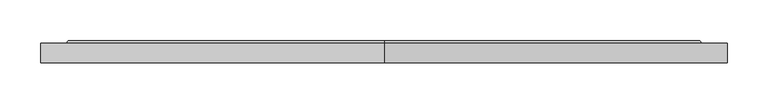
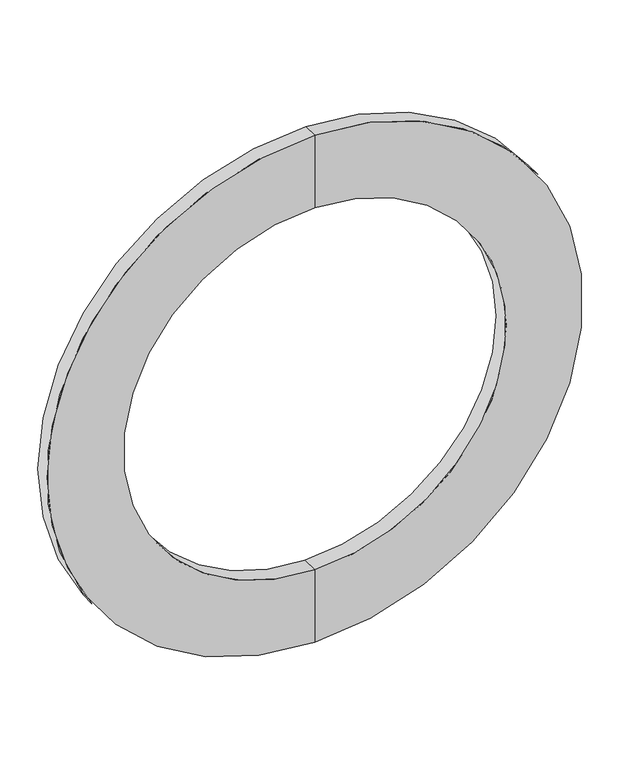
"""IFC4 building model written with IfcOpenShell, lengths in millimetres: pipe fitting geometry, Фланец : Фланец."""

from ifc_helpers import new_model, si_unit, frame, origin, place, context, project, spatial, polyline, circle_curve, source, transform, mapped, element, save
from ifc_brep_helpers import plane_surface, cylinder_surface, revolved_surface, advanced_brep


def pipe_fitting_fec01fe7(model_context):
    return source(origin(), model_context, "Body", "AdvancedBrep", [
        advanced_brep(
        [(0.0, 0.0, -420.0), (0.0, 0.0, 420.0), (0.0, 23.7, 420.0), (0.0, 23.7, -420.0), (0.0, 0.0, -300.0), (0.0, 0.0, 300.0), (0.0, 26.7, -300.0), (0.0, 26.7, 300.0), (0.0, 26.7, -388.5), (0.0, 26.7, 388.5), (0.0, 23.7, -391.0), (0.0, 23.7, 391.0)],
        [
            (0, 1, circle_curve(frame((0.0, 0.0, 0.0), z_axis=(0.0, 1.0, 0.0), x_axis=(0.0, 0.0, 1.0)), 420.0)),
            (1, 2),
            (2, 3, circle_curve(frame((0.0, 23.7, 0.0), z_axis=(0.0, -1.0, 0.0), x_axis=(0.0, 0.0, 1.0)), 420.0)),
            (3, 0),
            (1, 0, circle_curve(frame((0.0, 0.0, 0.0), z_axis=(0.0, 1.0, 0.0), x_axis=(0.0, 0.0, 1.0)), 420.0)),
            (3, 2, circle_curve(frame((0.0, 23.7, 0.0), z_axis=(0.0, -1.0, 0.0), x_axis=(0.0, 0.0, 1.0)), 420.0)),
            (4, 5, circle_curve(frame((0.0, 0.0, 0.0), z_axis=(0.0, 1.0, 0.0), x_axis=(0.0, 0.0, 1.0)), 300.0)),
            (5, 1),
            (0, 4),
            (5, 4, circle_curve(frame((0.0, 0.0, 0.0), z_axis=(0.0, 1.0, 0.0), x_axis=(0.0, 0.0, 1.0)), 300.0)),
            (6, 7, circle_curve(frame((0.0, 26.7, 0.0), z_axis=(0.0, 1.0, 0.0), x_axis=(0.0, 0.0, 1.0)), 300.0)),
            (7, 5),
            (4, 6),
            (7, 6, circle_curve(frame((0.0, 26.7, 0.0), z_axis=(0.0, 1.0, 0.0), x_axis=(0.0, 0.0, 1.0)), 300.0)),
            (8, 9, circle_curve(frame((0.0, 26.7, 0.0), z_axis=(0.0, 1.0, 0.0), x_axis=(0.0, 0.0, 1.0)), 388.5)),
            (9, 7),
            (6, 8),
            (9, 8, circle_curve(frame((0.0, 26.7, 0.0), z_axis=(0.0, 1.0, 0.0), x_axis=(0.0, 0.0, 1.0)), 388.5)),
            (10, 11, circle_curve(frame((0.0, 23.7, 0.0), z_axis=(0.0, 1.0, 0.0), x_axis=(0.0, 0.0, 1.0)), 391.0)),
            (11, 9),
            (8, 10),
            (11, 10, circle_curve(frame((0.0, 23.7, 0.0), z_axis=(0.0, 1.0, 0.0), x_axis=(0.0, 0.0, 1.0)), 391.0)),
            (2, 11),
            (10, 3),
        ],
        [
            cylinder_surface(frame((0.0, -60.0, 0.0), z_axis=(0.0, -1.0, 0.0), x_axis=(0.0, 0.0, 1.0)), 420.0),
            plane_surface(frame((0.0, 0.0, 0.0), z_axis=(0.0, -1.0, 0.0), x_axis=(0.0, 0.0, 1.0))),
            revolved_surface(polyline([(0.0, 0.0, 300.0), (0.0, 26.700000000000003, 300.0)]), (0.0, -60.0, 0.0), (0.0, -1.0, 0.0)),
            plane_surface(frame((0.0, 26.7, 0.0), z_axis=(0.0, 1.0, 0.0), x_axis=(0.0, 0.0, 1.0))),
            revolved_surface(polyline([(0.0, 26.7, 388.5), (0.0, 23.7, 391.0)]), (0.0, -60.0, 0.0), (0.0, -1.0, 0.0)),
            plane_surface(frame((0.0, 23.7, 0.0), z_axis=(0.0, 1.0, 0.0), x_axis=(0.0, 0.0, 1.0))),
        ],
        [
            (0, [[1, 2, 3, 4]]),
            (0, [[5, -4, 6, -2]]),
            (1, [[7, 8, -1, 9]]),
            (1, [[10, -9, -5, -8]]),
            (2, [[11, 12, -7, 13]]),
            (2, [[14, -13, -10, -12]]),
            (3, [[15, 16, -11, 17]]),
            (3, [[18, -17, -14, -16]]),
            (4, [[19, 20, -15, 21]]),
            (4, [[22, -21, -18, -20]]),
            (5, [[-3, 23, -19, 24]]),
            (5, [[-6, -24, -22, -23]]),
        ],
    ),
    ])


if __name__ == "__main__":
    model = new_model("IFC4")
    model_context = context("Model", 3, world=origin())
    ifc_project = project(units=[si_unit("LENGTHUNIT", "METRE", prefix="MILLI")], contexts=[model_context])
    site = spatial("IfcSite", under=ifc_project)
    building = spatial("IfcBuilding", under=site)
    placement = place(None, origin())
    pipe_fitting_shape = pipe_fitting_fec01fe7(model_context)
    element("IfcPipeFitting", 1, ObjectType="Фланец : Фланец", at=placement, inside=building, context=model_context, shape_type="MappedRepresentation", body=[
        mapped(pipe_fitting_shape, transform((0.0, 0.0, 0.0), x_axis=(1.0, 0.0, 0.0), y_axis=(0.0, 1.0, 0.0), z_axis=(0.0, 0.0, 1.0))),
    ])
    save(model, "model.ifc")
